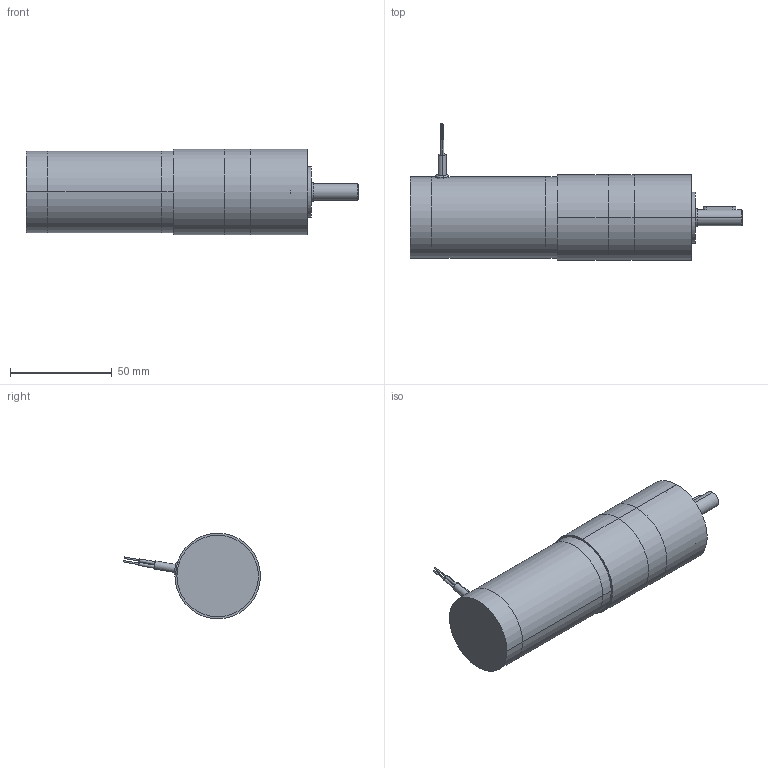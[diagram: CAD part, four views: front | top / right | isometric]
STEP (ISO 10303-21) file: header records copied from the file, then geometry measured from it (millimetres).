
FILE_DESCRIPTION (( 'STEP AP203' ), '1' );
FILE_NAME ('tm40285gp1.step', '2018-12-07T20:10:01', ( '' ), ( '' ), 'SwSTEP 2.0', 'SolidWorks 2017', '' );
FILE_SCHEMA (( 'CONFIG_CONTROL_DESIGN' ));
Length unit declared in the file: inch
Products named in the file (1): tm40285gp1
Bounding box: 163.06 x 67.24 x 42 mm (x, y, z)
Volume: 178174 mm3; surface area: 43713.3 mm2
Topology: 17 solids, 17 shells, 288 faces, 593 edges, 380 vertices
Faces by surface type: cylinder 127, plane 126, cone 21, torus 10, sphere 4
Entity records: 7877 total; most frequent: DIRECTION 1492, CARTESIAN_POINT 1372, ORIENTED_EDGE 1186, AXIS2_PLACEMENT_3D 616, EDGE_CURVE 593, VERTEX_POINT 380, EDGE_LOOP 347, CIRCLE 327
